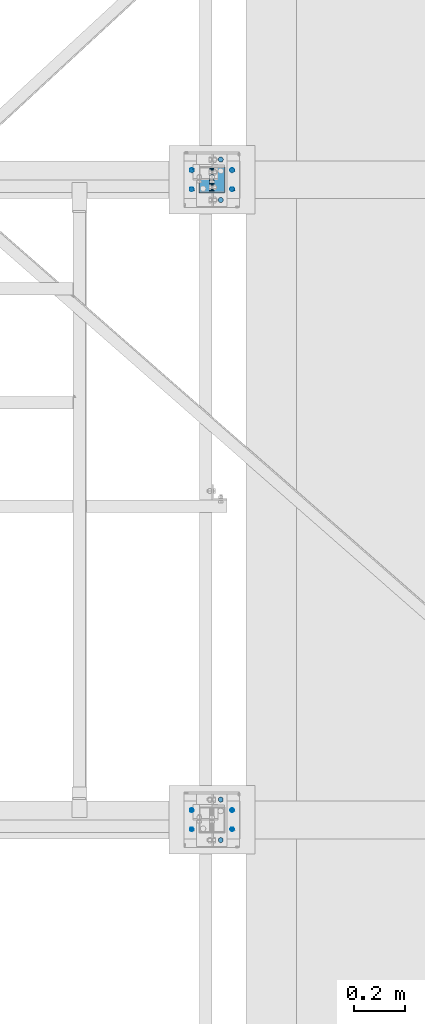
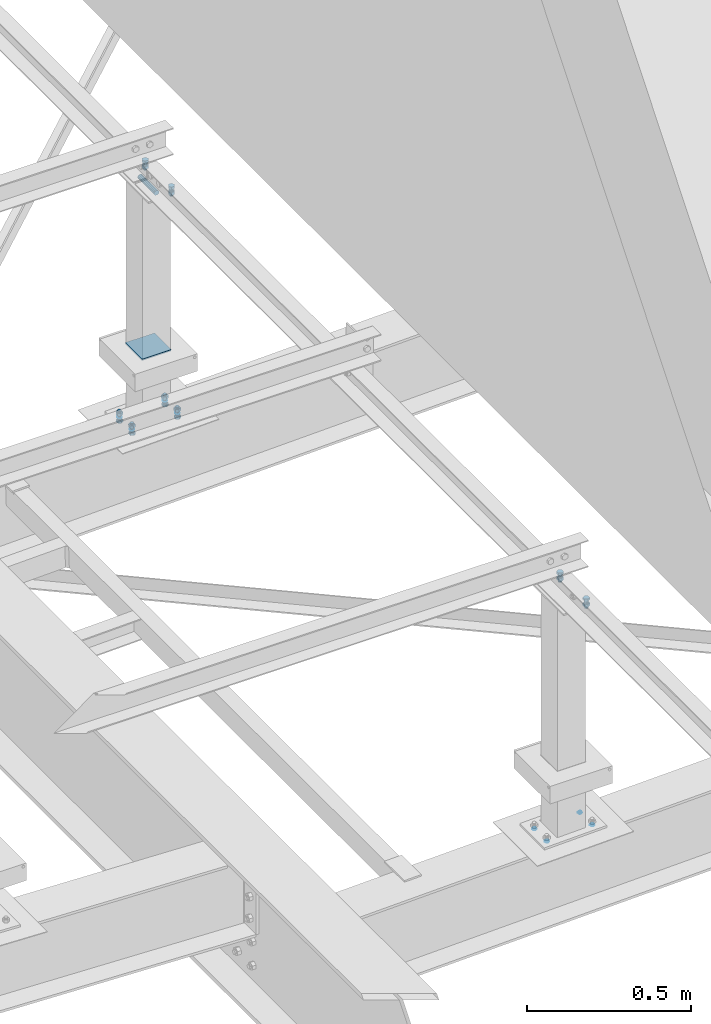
# One storey, part 88 of 3134: 7 mechanical fasteners, 6 elements without a shape of their own.
"""IFC2X3 building model written with IfcOpenShell, lengths in millimetres."""

from ifc_helpers import new_model, si_unit, frame, origin_with_axes, place, context, subcontext, project, spatial, faceted_brep, source, transform, mapped, material, type_object, element, aggregate, save


model = new_model("IFC2X3")

# Units and contexts
model_context = context("Model", 3, precision=1e-05, world=origin_with_axes())
body_context = subcontext(model_context, "Body", "Model", "MODEL_VIEW")
ifc_project = project(units=[si_unit("LENGTHUNIT", "METRE", prefix="MILLI"), si_unit("AREAUNIT", "SQUARE_METRE"), si_unit("VOLUMEUNIT", "CUBIC_METRE"), si_unit("MASSUNIT", "GRAM", prefix="KILO"), si_unit("TIMEUNIT", "SECOND"), si_unit("PLANEANGLEUNIT", "RADIAN"), si_unit("SOLIDANGLEUNIT", "STERADIAN"), si_unit("THERMODYNAMICTEMPERATUREUNIT", "DEGREE_CELSIUS"), si_unit("LUMINOUSINTENSITYUNIT", "LUMEN")], contexts=[model_context])

# Site, building, storey
site_placement = place(None, origin_with_axes())
site = spatial("IfcSite", under=ifc_project, at=site_placement, CompositionType="ELEMENT")
building_placement = place(site_placement, origin_with_axes())
building = spatial("IfcBuilding", under=site, at=building_placement, Name="Undefined", CompositionType="ELEMENT")
storey_placement = place(building_placement, origin_with_axes())
storey = spatial("IfcBuildingStorey", under=building, at=storey_placement, Name="Undefined", CompositionType="ELEMENT", Elevation=0.0)

# Assembly, mechanical fastener
assembly_1_placement = place(storey_placement, origin_with_axes())
assembly_1 = element("IfcElementAssembly", 1, at=assembly_1_placement, inside=storey, AssemblyPlace="NOTDEFINED", PredefinedType="RIGID_FRAME")
ifc_material_1 = material(Name="8.8")
mechanical_fastener_type = type_object("IfcMechanicalFastenerType", Name="Bolt assembly")
shared_shape_1 = source(origin_with_axes(), body_context, "Body", "Brep", [
    faceted_brep([(10.9696551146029, -14.0, 0.0), (5.48482755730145, -14.0, 9.5), (-5.48482755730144, -14.0, 9.5), (-10.9696551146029, -14.0, 1.34339530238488e-15), (-5.48482755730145, -14.0, -9.5), (5.48482755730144, -14.0, -9.50000000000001), (5.48482755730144, -6.0, -9.50000000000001), (-5.48482755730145, -6.0, -9.5), (-10.9696551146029, -6.0, 1.34339530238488e-15), (-5.48482755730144, -6.0, 9.5), (5.48482755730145, -6.0, 9.5), (10.9696551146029, -6.0, 0.0), (6.0, -6.0, 0.0), (5.19615242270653, -6.0, 3.00000000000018), (2.99999999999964, -6.0, 5.19615242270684), (-6.21801588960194e-13, -6.0, 6.0), (-3.00000000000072, -6.0, 5.19615242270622), (-5.19615242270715, -6.0, 2.9999999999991), (-6.0, -6.0, -1.24360317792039e-12), (-5.19615242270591, -6.0, -3.00000000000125), (-2.99999999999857, -6.0, -5.19615242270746), (1.85874342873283e-12, -6.0, -6.0), (3.00000000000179, -6.0, -5.1961524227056), (5.19615242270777, -6.0, -2.99999999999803), (5.19615242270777, 24.0, -2.99999999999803), (3.00000000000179, 24.0, -5.1961524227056), (1.85874342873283e-12, 24.0, -6.0), (-2.99999999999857, 24.0, -5.19615242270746), (-5.19615242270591, 24.0, -3.00000000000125), (-6.0, 24.0, -1.24360317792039e-12), (-5.19615242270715, 24.0, 2.9999999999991), (-3.00000000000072, 24.0, 5.19615242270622), (-6.21801588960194e-13, 24.0, 6.0), (2.99999999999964, 24.0, 5.19615242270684), (5.19615242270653, 24.0, 3.00000000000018), (6.0, 24.0, 0.0), (10.9696551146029, 6.00000000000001, 0.0), (5.48482755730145, 6.00000000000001, 9.5), (-5.48482755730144, 6.00000000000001, 9.5), (-10.9696551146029, 6.00000000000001, 1.34339530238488e-15), (-5.48482755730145, 6.00000000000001, -9.5), (5.48482755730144, 6.00000000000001, -9.50000000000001), (5.48482755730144, 16.0, -9.50000000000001), (-5.48482755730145, 16.0, -9.5), (-10.9696551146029, 16.0, 1.34339530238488e-15), (-5.48482755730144, 16.0, 9.5), (5.48482755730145, 16.0, 9.5), (10.9696551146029, 16.0, 0.0)], [[[0, 1, 2, 3, 4, 5]], [[6, 7, 8, 9, 10, 11]], [[0, 11, 10, 1]], [[1, 10, 9, 2]], [[2, 9, 8, 3]], [[3, 8, 7, 4]], [[4, 7, 6, 5]], [[5, 6, 11, 0]], [[12, 13, 14, 15, 16, 17, 18, 19, 20, 21, 22, 23]], [[24, 25, 26, 27, 28, 29, 30, 31, 32, 33, 34, 35]], [[12, 35, 34, 13]], [[13, 34, 33, 14]], [[14, 33, 32, 15]], [[15, 32, 31, 16]], [[16, 31, 30, 17]], [[17, 30, 29, 18]], [[18, 29, 28, 19]], [[19, 28, 27, 20]], [[20, 27, 26, 21]], [[21, 26, 25, 22]], [[22, 25, 24, 23]], [[23, 24, 35, 12]], [[36, 37, 38, 39, 40, 41]], [[42, 43, 44, 45, 46, 47]], [[36, 47, 46, 37]], [[37, 46, 45, 38]], [[38, 45, 44, 39]], [[39, 44, 43, 40]], [[40, 43, 42, 41]], [[41, 42, 47, 36]]]),
    faceted_brep([(7.0, -5.9, 0.0), (6.06217782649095, -5.9, 3.50000000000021), (3.49999999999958, -5.9, 6.06217782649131), (-7.25435187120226e-13, -5.9, 7.0), (-3.50000000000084, -5.9, 6.06217782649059), (-6.06217782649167, -5.9, 3.49999999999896), (-7.0, -5.9, -1.45087037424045e-12), (-6.06217782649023, -5.9, -3.50000000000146), (-3.49999999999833, -5.9, -6.06217782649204), (2.1685340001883e-12, -5.9, -7.0), (3.50000000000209, -5.9, -6.06217782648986), (6.0621778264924, -5.9, -3.4999999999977), (6.0621778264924, 0.0999999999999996, -3.4999999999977), (3.50000000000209, 0.0999999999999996, -6.06217782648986), (2.1685340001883e-12, 0.0999999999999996, -7.0), (-3.49999999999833, 0.0999999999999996, -6.06217782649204), (-6.06217782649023, 0.0999999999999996, -3.50000000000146), (-7.0, 0.0999999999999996, -1.45087037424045e-12), (-6.06217782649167, 0.0999999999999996, 3.49999999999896), (-3.50000000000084, 0.0999999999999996, 6.06217782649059), (-7.25435187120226e-13, 0.0999999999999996, 7.0), (3.49999999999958, 0.0999999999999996, 6.06217782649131), (6.06217782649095, 0.0999999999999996, 3.50000000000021), (7.0, 0.0999999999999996, 0.0), (7.0, -0.1, 0.0), (6.06217782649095, -0.1, 3.50000000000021), (3.49999999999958, -0.1, 6.06217782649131), (-7.25435187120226e-13, -0.1, 7.0), (-3.50000000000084, -0.1, 6.06217782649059), (-6.06217782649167, -0.1, 3.49999999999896), (-7.0, -0.1, -1.45087037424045e-12), (-6.06217782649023, -0.1, -3.50000000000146), (-3.49999999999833, -0.1, -6.06217782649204), (2.1685340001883e-12, -0.1, -7.0), (3.50000000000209, -0.1, -6.06217782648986), (6.0621778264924, -0.1, -3.4999999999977), (6.0621778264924, 6.00000000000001, -3.4999999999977), (3.50000000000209, 6.00000000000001, -6.06217782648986), (2.1685340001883e-12, 6.00000000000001, -7.0), (-3.49999999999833, 6.00000000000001, -6.06217782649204), (-6.06217782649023, 6.00000000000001, -3.50000000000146), (-7.0, 6.00000000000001, -1.45087037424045e-12), (-6.06217782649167, 6.00000000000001, 3.49999999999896), (-3.50000000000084, 6.00000000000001, 6.06217782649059), (-7.25435187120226e-13, 6.00000000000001, 7.0), (3.49999999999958, 6.00000000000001, 6.06217782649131), (6.06217782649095, 6.00000000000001, 3.50000000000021), (7.0, 6.00000000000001, 0.0)], [[[0, 1, 2, 3, 4, 5, 6, 7, 8, 9, 10, 11]], [[12, 13, 14, 15, 16, 17, 18, 19, 20, 21, 22, 23]], [[0, 23, 22, 1]], [[1, 22, 21, 2]], [[2, 21, 20, 3]], [[3, 20, 19, 4]], [[4, 19, 18, 5]], [[5, 18, 17, 6]], [[6, 17, 16, 7]], [[7, 16, 15, 8]], [[8, 15, 14, 9]], [[9, 14, 13, 10]], [[10, 13, 12, 11]], [[11, 12, 23, 0]], [[24, 25, 26, 27, 28, 29, 30, 31, 32, 33, 34, 35]], [[36, 37, 38, 39, 40, 41, 42, 43, 44, 45, 46, 47]], [[24, 47, 46, 25]], [[25, 46, 45, 26]], [[26, 45, 44, 27]], [[27, 44, 43, 28]], [[28, 43, 42, 29]], [[29, 42, 41, 30]], [[30, 41, 40, 31]], [[31, 40, 39, 32]], [[32, 39, 38, 33]], [[33, 38, 37, 34]], [[34, 37, 36, 35]], [[35, 36, 47, 24]]]),
])
mechanical_fastener_1_placement = place(assembly_1_placement, frame((10440.0, 26963.75, 4265.0), z_axis=(-1.0, 0.0, 0.0), x_axis=(0.0, 1.0, 0.0)))
mechanical_fastener_1 = element("IfcMechanicalFastener", 2, at=mechanical_fastener_1_placement, type_object=mechanical_fastener_type, material=ifc_material_1, Name="Bolt assembly", NominalDiameter=12.0, NominalLength=30.0, context=body_context, shape_type="MappedRepresentation", body=[
    mapped(shared_shape_1, transform((0.0, 0.0, 0.0))),
    mapped(shared_shape_1, transform((160.0, 0.0, 0.0))),
])
aggregate(assembly_1, [mechanical_fastener_1])

assembly_2_placement = place(storey_placement, origin_with_axes())
assembly_2 = element("IfcElementAssembly", 3, at=assembly_2_placement, inside=storey, AssemblyPlace="NOTDEFINED", PredefinedType="RIGID_FRAME")
shared_shape_2 = source(origin_with_axes(), body_context, "Body", "Brep", [
    faceted_brep([(10.9696551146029, -14.0, 0.0), (5.48482755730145, -14.0, 9.5), (-5.48482755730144, -14.0, 9.5), (-10.9696551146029, -14.0, 1.34339530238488e-15), (-5.48482755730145, -14.0, -9.5), (5.48482755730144, -14.0, -9.50000000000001), (5.48482755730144, -6.0, -9.50000000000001), (-5.48482755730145, -6.0, -9.5), (-10.9696551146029, -6.0, 1.34339530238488e-15), (-5.48482755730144, -6.0, 9.5), (5.48482755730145, -6.0, 9.5), (10.9696551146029, -6.0, 0.0), (6.0, -6.0, 0.0), (5.19615242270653, -6.0, 3.00000000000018), (2.99999999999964, -6.0, 5.19615242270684), (-6.21801588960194e-13, -6.0, 6.0), (-3.00000000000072, -6.0, 5.19615242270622), (-5.19615242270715, -6.0, 2.9999999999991), (-6.0, -6.0, -1.24360317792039e-12), (-5.19615242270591, -6.0, -3.00000000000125), (-2.99999999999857, -6.0, -5.19615242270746), (1.85874342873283e-12, -6.0, -6.0), (3.00000000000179, -6.0, -5.1961524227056), (5.19615242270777, -6.0, -2.99999999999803), (5.19615242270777, 24.0, -2.99999999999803), (3.00000000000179, 24.0, -5.1961524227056), (1.85874342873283e-12, 24.0, -6.0), (-2.99999999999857, 24.0, -5.19615242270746), (-5.19615242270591, 24.0, -3.00000000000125), (-6.0, 24.0, -1.24360317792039e-12), (-5.19615242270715, 24.0, 2.9999999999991), (-3.00000000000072, 24.0, 5.19615242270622), (-6.21801588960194e-13, 24.0, 6.0), (2.99999999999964, 24.0, 5.19615242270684), (5.19615242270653, 24.0, 3.00000000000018), (6.0, 24.0, 0.0), (10.9696551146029, 6.00000000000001, 0.0), (5.48482755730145, 6.00000000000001, 9.5), (-5.48482755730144, 6.00000000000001, 9.5), (-10.9696551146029, 6.00000000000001, 1.34339530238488e-15), (-5.48482755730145, 6.00000000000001, -9.5), (5.48482755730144, 6.00000000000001, -9.50000000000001), (5.48482755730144, 16.0, -9.50000000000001), (-5.48482755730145, 16.0, -9.5), (-10.9696551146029, 16.0, 1.34339530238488e-15), (-5.48482755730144, 16.0, 9.5), (5.48482755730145, 16.0, 9.5), (10.9696551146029, 16.0, 0.0)], [[[0, 1, 2, 3, 4, 5]], [[6, 7, 8, 9, 10, 11]], [[0, 11, 10, 1]], [[1, 10, 9, 2]], [[2, 9, 8, 3]], [[3, 8, 7, 4]], [[4, 7, 6, 5]], [[5, 6, 11, 0]], [[12, 13, 14, 15, 16, 17, 18, 19, 20, 21, 22, 23]], [[24, 25, 26, 27, 28, 29, 30, 31, 32, 33, 34, 35]], [[12, 35, 34, 13]], [[13, 34, 33, 14]], [[14, 33, 32, 15]], [[15, 32, 31, 16]], [[16, 31, 30, 17]], [[17, 30, 29, 18]], [[18, 29, 28, 19]], [[19, 28, 27, 20]], [[20, 27, 26, 21]], [[21, 26, 25, 22]], [[22, 25, 24, 23]], [[23, 24, 35, 12]], [[36, 37, 38, 39, 40, 41]], [[42, 43, 44, 45, 46, 47]], [[36, 47, 46, 37]], [[37, 46, 45, 38]], [[38, 45, 44, 39]], [[39, 44, 43, 40]], [[40, 43, 42, 41]], [[41, 42, 47, 36]]]),
    faceted_brep([(7.0, -0.1, 0.0), (6.06217782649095, -0.1, 3.50000000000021), (3.49999999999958, -0.1, 6.06217782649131), (-7.25435187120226e-13, -0.1, 7.0), (-3.50000000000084, -0.1, 6.06217782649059), (-6.06217782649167, -0.1, 3.49999999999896), (-7.0, -0.1, -1.45087037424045e-12), (-6.06217782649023, -0.1, -3.50000000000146), (-3.49999999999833, -0.1, -6.06217782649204), (2.1685340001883e-12, -0.1, -7.0), (3.50000000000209, -0.1, -6.06217782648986), (6.0621778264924, -0.1, -3.4999999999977), (6.0621778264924, 6.00000000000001, -3.4999999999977), (3.50000000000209, 6.00000000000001, -6.06217782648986), (2.1685340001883e-12, 6.00000000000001, -7.0), (-3.49999999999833, 6.00000000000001, -6.06217782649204), (-6.06217782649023, 6.00000000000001, -3.50000000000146), (-7.0, 6.00000000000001, -1.45087037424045e-12), (-6.06217782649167, 6.00000000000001, 3.49999999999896), (-3.50000000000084, 6.00000000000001, 6.06217782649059), (-7.25435187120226e-13, 6.00000000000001, 7.0), (3.49999999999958, 6.00000000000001, 6.06217782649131), (6.06217782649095, 6.00000000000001, 3.50000000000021), (7.0, 6.00000000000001, 0.0), (7.0, -5.9, 0.0), (6.06217782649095, -5.9, 3.50000000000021), (3.49999999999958, -5.9, 6.06217782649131), (-7.25435187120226e-13, -5.9, 7.0), (-3.50000000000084, -5.9, 6.06217782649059), (-6.06217782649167, -5.9, 3.49999999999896), (-7.0, -5.9, -1.45087037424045e-12), (-6.06217782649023, -5.9, -3.50000000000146), (-3.49999999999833, -5.9, -6.06217782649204), (2.1685340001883e-12, -5.9, -7.0), (3.50000000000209, -5.9, -6.06217782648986), (6.0621778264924, -5.9, -3.4999999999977), (6.0621778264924, 0.0999999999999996, -3.4999999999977), (3.50000000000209, 0.0999999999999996, -6.06217782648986), (2.1685340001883e-12, 0.0999999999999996, -7.0), (-3.49999999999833, 0.0999999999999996, -6.06217782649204), (-6.06217782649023, 0.0999999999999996, -3.50000000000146), (-7.0, 0.0999999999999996, -1.45087037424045e-12), (-6.06217782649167, 0.0999999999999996, 3.49999999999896), (-3.50000000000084, 0.0999999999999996, 6.06217782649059), (-7.25435187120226e-13, 0.0999999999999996, 7.0), (3.49999999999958, 0.0999999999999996, 6.06217782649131), (6.06217782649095, 0.0999999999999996, 3.50000000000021), (7.0, 0.0999999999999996, 0.0)], [[[0, 1, 2, 3, 4, 5, 6, 7, 8, 9, 10, 11]], [[12, 13, 14, 15, 16, 17, 18, 19, 20, 21, 22, 23]], [[0, 23, 22, 1]], [[1, 22, 21, 2]], [[2, 21, 20, 3]], [[3, 20, 19, 4]], [[4, 19, 18, 5]], [[5, 18, 17, 6]], [[6, 17, 16, 7]], [[7, 16, 15, 8]], [[8, 15, 14, 9]], [[9, 14, 13, 10]], [[10, 13, 12, 11]], [[11, 12, 23, 0]], [[24, 25, 26, 27, 28, 29, 30, 31, 32, 33, 34, 35]], [[36, 37, 38, 39, 40, 41, 42, 43, 44, 45, 46, 47]], [[24, 47, 46, 25]], [[25, 46, 45, 26]], [[26, 45, 44, 27]], [[27, 44, 43, 28]], [[28, 43, 42, 29]], [[29, 42, 41, 30]], [[30, 41, 40, 31]], [[31, 40, 39, 32]], [[32, 39, 38, 33]], [[33, 38, 37, 34]], [[34, 37, 36, 35]], [[35, 36, 47, 24]]]),
])
mechanical_fastener_2_placement = place(assembly_2_placement, frame((10440.0, 29575.0, 4265.0), z_axis=(0.0, -1.0, 0.0), x_axis=(-1.0, 0.0, 0.0)))
mechanical_fastener_2 = element("IfcMechanicalFastener", 4, at=mechanical_fastener_2_placement, type_object=mechanical_fastener_type, material=ifc_material_1, Name="Bolt assembly", NominalDiameter=12.0, NominalLength=30.0, context=body_context, shape_type="MappedRepresentation", body=[
    mapped(shared_shape_2, transform((0.0, -5.32963895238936e-10, -79.9999999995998))),
    mapped(shared_shape_2, transform((0.0, 5.3114490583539e-10, 79.9999999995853))),
])
aggregate(assembly_2, [mechanical_fastener_2])

assembly_3_placement = place(storey_placement, origin_with_axes())
assembly_3 = element("IfcElementAssembly", 5, at=assembly_3_placement, inside=storey, Name="300", AssemblyPlace="NOTDEFINED", PredefinedType="RIGID_FRAME")
shared_shape_3 = source(origin_with_axes(), body_context, "Body", "Brep", [
    faceted_brep([(10.9696551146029, -4.1984682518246, 0.0), (5.48482755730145, -4.1984682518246, 9.5), (-5.48482755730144, -4.1984682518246, 9.5), (-10.9696551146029, -4.1984682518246, 1.34339530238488e-15), (-5.48482755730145, -4.1984682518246, -9.5), (5.48482755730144, -4.1984682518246, -9.50000000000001), (5.48482755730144, 3.8015317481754, -9.50000000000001), (-5.48482755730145, 3.8015317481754, -9.5), (-10.9696551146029, 3.8015317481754, 1.34339530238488e-15), (-5.48482755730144, 3.8015317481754, 9.5), (5.48482755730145, 3.8015317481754, 9.5), (10.9696551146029, 3.8015317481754, 0.0), (6.0, 3.8015317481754, 0.0), (5.19615242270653, 3.8015317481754, 3.00000000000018), (2.99999999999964, 3.8015317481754, 5.19615242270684), (-6.21801588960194e-13, 3.8015317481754, 6.0), (-3.00000000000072, 3.8015317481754, 5.19615242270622), (-5.19615242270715, 3.8015317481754, 2.9999999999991), (-6.0, 3.8015317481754, -1.24360317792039e-12), (-5.19615242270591, 3.8015317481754, -3.00000000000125), (-2.99999999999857, 3.8015317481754, -5.19615242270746), (1.85874342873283e-12, 3.8015317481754, -6.0), (3.00000000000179, 3.8015317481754, -5.1961524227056), (5.19615242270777, 3.8015317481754, -2.99999999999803), (5.19615242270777, 38.8015317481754, -2.99999999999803), (3.00000000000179, 38.8015317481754, -5.1961524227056), (1.85874342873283e-12, 38.8015317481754, -6.0), (-2.99999999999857, 38.8015317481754, -5.19615242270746), (-5.19615242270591, 38.8015317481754, -3.00000000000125), (-6.0, 38.8015317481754, -1.24360317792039e-12), (-5.19615242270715, 38.8015317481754, 2.9999999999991), (-3.00000000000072, 38.8015317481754, 5.19615242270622), (-6.21801588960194e-13, 38.8015317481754, 6.0), (2.99999999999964, 38.8015317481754, 5.19615242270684), (5.19615242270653, 38.8015317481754, 3.00000000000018), (6.0, 38.8015317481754, 0.0), (10.9696551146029, 23.0039050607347, 0.0), (5.48482755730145, 23.0039050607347, 9.5), (-5.48482755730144, 23.0039050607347, 9.5), (-10.9696551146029, 23.0039050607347, 1.34339530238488e-15), (-5.48482755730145, 23.0039050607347, -9.5), (5.48482755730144, 23.0039050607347, -9.50000000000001), (5.48482755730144, 33.0039050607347, -9.50000000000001), (-5.48482755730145, 33.0039050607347, -9.5), (-10.9696551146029, 33.0039050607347, 1.34339530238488e-15), (-5.48482755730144, 33.0039050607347, 9.5), (5.48482755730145, 33.0039050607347, 9.5), (10.9696551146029, 33.0039050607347, 0.0)], [[[0, 1, 2, 3, 4, 5]], [[6, 7, 8, 9, 10, 11]], [[0, 11, 10, 1]], [[1, 10, 9, 2]], [[2, 9, 8, 3]], [[3, 8, 7, 4]], [[4, 7, 6, 5]], [[5, 6, 11, 0]], [[12, 13, 14, 15, 16, 17, 18, 19, 20, 21, 22, 23]], [[24, 25, 26, 27, 28, 29, 30, 31, 32, 33, 34, 35]], [[12, 35, 34, 13]], [[13, 34, 33, 14]], [[14, 33, 32, 15]], [[15, 32, 31, 16]], [[16, 31, 30, 17]], [[17, 30, 29, 18]], [[18, 29, 28, 19]], [[19, 28, 27, 20]], [[20, 27, 26, 21]], [[21, 26, 25, 22]], [[22, 25, 24, 23]], [[23, 24, 35, 12]], [[36, 37, 38, 39, 40, 41]], [[42, 43, 44, 45, 46, 47]], [[36, 47, 46, 37]], [[37, 46, 45, 38]], [[38, 45, 44, 39]], [[39, 44, 43, 40]], [[40, 43, 42, 41]], [[41, 42, 47, 36]]]),
    faceted_brep([(7.0, 14.9039050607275, 0.0), (6.06217782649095, 14.9039050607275, 3.50000000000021), (3.49999999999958, 14.9039050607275, 6.06217782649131), (-7.25435187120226e-13, 14.9039050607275, 7.0), (-3.50000000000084, 14.9039050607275, 6.06217782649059), (-6.06217782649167, 14.9039050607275, 3.49999999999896), (-7.0, 14.9039050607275, -1.45087037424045e-12), (-6.06217782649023, 14.9039050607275, -3.50000000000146), (-3.49999999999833, 14.9039050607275, -6.06217782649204), (2.1685340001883e-12, 14.9039050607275, -7.0), (3.50000000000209, 14.9039050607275, -6.06217782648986), (6.0621778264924, 14.9039050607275, -3.4999999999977), (6.0621778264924, 23.0039050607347, -3.4999999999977), (3.50000000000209, 23.0039050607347, -6.06217782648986), (2.1685340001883e-12, 23.0039050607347, -7.0), (-3.49999999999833, 23.0039050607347, -6.06217782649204), (-6.06217782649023, 23.0039050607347, -3.50000000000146), (-7.0, 23.0039050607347, -1.45087037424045e-12), (-6.06217782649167, 23.0039050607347, 3.49999999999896), (-3.50000000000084, 23.0039050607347, 6.06217782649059), (-7.25435187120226e-13, 23.0039050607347, 7.0), (3.49999999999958, 23.0039050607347, 6.06217782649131), (6.06217782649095, 23.0039050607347, 3.50000000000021), (7.0, 23.0039050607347, 0.0), (7.0, 3.9015317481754, 0.0), (6.06217782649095, 3.9015317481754, 3.50000000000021), (3.49999999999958, 3.9015317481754, 6.06217782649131), (-7.25435187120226e-13, 3.9015317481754, 7.0), (-3.50000000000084, 3.9015317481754, 6.06217782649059), (-6.06217782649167, 3.9015317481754, 3.49999999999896), (-7.0, 3.9015317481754, -1.45087037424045e-12), (-6.06217782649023, 3.9015317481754, -3.50000000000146), (-3.49999999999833, 3.9015317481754, -6.06217782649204), (2.1685340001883e-12, 3.9015317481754, -7.0), (3.50000000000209, 3.9015317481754, -6.06217782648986), (6.0621778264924, 3.9015317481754, -3.4999999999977), (6.0621778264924, 13.1015315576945, -3.4999999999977), (3.50000000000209, 13.1015315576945, -6.06217782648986), (2.1685340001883e-12, 13.1015315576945, -7.0), (-3.49999999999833, 13.1015315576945, -6.06217782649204), (-6.06217782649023, 13.1015315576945, -3.50000000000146), (-7.0, 13.1015315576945, -1.45087037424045e-12), (-6.06217782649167, 13.1015315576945, 3.49999999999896), (-3.50000000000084, 13.1015315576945, 6.06217782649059), (-7.25435187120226e-13, 13.1015315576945, 7.0), (3.49999999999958, 13.1015315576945, 6.06217782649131), (6.06217782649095, 13.1015315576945, 3.50000000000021), (7.0, 13.1015315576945, 0.0)], [[[0, 1, 2, 3, 4, 5, 6, 7, 8, 9, 10, 11]], [[12, 13, 14, 15, 16, 17, 18, 19, 20, 21, 22, 23]], [[0, 23, 22, 1]], [[1, 22, 21, 2]], [[2, 21, 20, 3]], [[3, 20, 19, 4]], [[4, 19, 18, 5]], [[5, 18, 17, 6]], [[6, 17, 16, 7]], [[7, 16, 15, 8]], [[8, 15, 14, 9]], [[9, 14, 13, 10]], [[10, 13, 12, 11]], [[11, 12, 23, 0]], [[24, 25, 26, 27, 28, 29, 30, 31, 32, 33, 34, 35]], [[36, 37, 38, 39, 40, 41, 42, 43, 44, 45, 46, 47]], [[24, 47, 46, 25]], [[25, 46, 45, 26]], [[26, 45, 44, 27]], [[27, 44, 43, 28]], [[28, 43, 42, 29]], [[29, 42, 41, 30]], [[30, 41, 40, 31]], [[31, 40, 39, 32]], [[32, 39, 38, 33]], [[33, 38, 37, 34]], [[34, 37, 36, 35]], [[35, 36, 47, 24]]]),
])
mechanical_fastener_3_placement = place(assembly_3_placement, frame((10405.7748812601, 29537.0, 3374.2272055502), z_axis=(0.999519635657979, 0.0, 0.0309919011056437), x_axis=(0.0, 1.0, 0.0)))
mechanical_fastener_3 = element("IfcMechanicalFastener", 6, at=mechanical_fastener_3_placement, type_object=mechanical_fastener_type, material=ifc_material_1, Name="Bolt assembly", NominalDiameter=12.0, NominalLength=35.0, context=body_context, shape_type="MappedRepresentation", body=[
    mapped(shared_shape_3, transform((0.0, -5.32963895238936e-10, -79.9999999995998))),
    mapped(shared_shape_3, transform((76.0, -5.32963895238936e-10, -79.9999999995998))),
    mapped(shared_shape_3, transform((0.0, 5.3114490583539e-10, 79.9999999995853))),
    mapped(shared_shape_3, transform((76.0, 5.3114490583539e-10, 79.9999999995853))),
])
aggregate(assembly_3, [mechanical_fastener_3])

assembly_4_placement = place(storey_placement, origin_with_axes())
assembly_4 = element("IfcElementAssembly", 7, at=assembly_4_placement, inside=storey, AssemblyPlace="NOTDEFINED", PredefinedType="RIGID_FRAME")
shared_shape_4 = source(origin_with_axes(), body_context, "Body", "Brep", [
    faceted_brep([(7.0, 13.0000253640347, 0.0), (6.06217782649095, 13.0000253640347, 3.50000000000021), (3.49999999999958, 13.0000253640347, 6.06217782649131), (-7.25435187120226e-13, 13.0000253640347, 7.0), (-3.50000000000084, 13.0000253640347, 6.06217782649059), (-6.06217782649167, 13.0000253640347, 3.49999999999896), (-7.0, 13.0000253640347, -1.45087037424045e-12), (-6.06217782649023, 13.0000253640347, -3.50000000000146), (-3.49999999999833, 13.0000253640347, -6.06217782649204), (2.1685340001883e-12, 13.0000253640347, -7.0), (3.50000000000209, 13.0000253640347, -6.06217782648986), (6.0621778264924, 13.0000253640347, -3.4999999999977), (6.0621778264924, 15.0999999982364, -3.4999999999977), (3.50000000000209, 15.0999999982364, -6.06217782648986), (2.1685340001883e-12, 15.0999999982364, -7.0), (-3.49999999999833, 15.0999999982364, -6.06217782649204), (-6.06217782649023, 15.0999999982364, -3.50000000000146), (-7.0, 15.0999999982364, -1.45087037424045e-12), (-6.06217782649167, 15.0999999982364, 3.49999999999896), (-3.50000000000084, 15.0999999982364, 6.06217782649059), (-7.25435187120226e-13, 15.0999999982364, 7.0), (3.49999999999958, 15.0999999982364, 6.06217782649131), (6.06217782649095, 15.0999999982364, 3.50000000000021), (7.0, 15.0999999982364, 0.0)], [[[0, 1, 2, 3, 4, 5, 6, 7, 8, 9, 10, 11]], [[12, 13, 14, 15, 16, 17, 18, 19, 20, 21, 22, 23]], [[0, 23, 22, 1]], [[1, 22, 21, 2]], [[2, 21, 20, 3]], [[3, 20, 19, 4]], [[4, 19, 18, 5]], [[5, 18, 17, 6]], [[6, 17, 16, 7]], [[7, 16, 15, 8]], [[8, 15, 14, 9]], [[9, 14, 13, 10]], [[10, 13, 12, 11]], [[11, 12, 23, 0]]]),
])
mechanical_fastener_4_placement = place(assembly_4_placement, frame((10405.7748812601, 29537.0, 3374.2272055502), z_axis=(0.999519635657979, 0.0, 0.0309919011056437), x_axis=(0.0, 1.0, 0.0)))
mechanical_fastener_4 = element("IfcMechanicalFastener", 8, at=mechanical_fastener_4_placement, type_object=mechanical_fastener_type, material=ifc_material_1, Name="Bolt assembly", NominalDiameter=12.0, NominalLength=2.0, context=body_context, shape_type="MappedRepresentation", body=[
    mapped(shared_shape_4, transform((0.0, -5.32963895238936e-10, -79.9999999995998))),
    mapped(shared_shape_4, transform((76.0, -5.32963895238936e-10, -79.9999999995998))),
    mapped(shared_shape_4, transform((0.0, 5.3114490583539e-10, 79.9999999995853))),
    mapped(shared_shape_4, transform((76.0, 5.3114490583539e-10, 79.9999999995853))),
])
aggregate(assembly_4, [mechanical_fastener_4])

assembly_5_placement = place(storey_placement, origin_with_axes())
assembly_5 = element("IfcElementAssembly", 9, at=assembly_5_placement, inside=storey, AssemblyPlace="NOTDEFINED", PredefinedType="RIGID_FRAME")
mechanical_fastener_5_placement = place(assembly_5_placement, frame((10405.7748812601, 27005.75, 3374.2272055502), z_axis=(0.999519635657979, 0.0, 0.0309919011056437), x_axis=(0.0, 1.0, 0.0)))
mechanical_fastener_5 = element("IfcMechanicalFastener", 10, at=mechanical_fastener_5_placement, type_object=mechanical_fastener_type, material=ifc_material_1, Name="Bolt assembly", NominalDiameter=12.0, NominalLength=2.0, context=body_context, shape_type="MappedRepresentation", body=[
    mapped(shared_shape_4, transform((0.0, -5.32963895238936e-10, -79.9999999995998))),
    mapped(shared_shape_4, transform((76.0, -5.32963895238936e-10, -79.9999999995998))),
    mapped(shared_shape_4, transform((0.0, 5.3114490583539e-10, 79.9999999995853))),
    mapped(shared_shape_4, transform((76.0, 5.3114490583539e-10, 79.9999999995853))),
])
aggregate(assembly_5, [mechanical_fastener_5])

# Assembly, mechanical fasteners
assembly_6_placement = place(storey_placement, origin_with_axes())
assembly_6 = element("IfcElementAssembly", 11, at=assembly_6_placement, inside=storey, AssemblyPlace="NOTDEFINED", PredefinedType="RIGID_FRAME")
shared_shape_5 = source(origin_with_axes(), body_context, "Body", "Brep", [
    faceted_brep([(9.0, -50.0, 0.0), (7.79422863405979, -50.0, 4.50000000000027), (4.49999999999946, -50.0, 7.79422863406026), (-9.3270238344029e-13, -50.0, 9.0), (-4.50000000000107, -50.0, 7.79422863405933), (-7.79422863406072, -50.0, 4.49999999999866), (-9.0, -50.0, -1.86540476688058e-12), (-7.79422863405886, -50.0, -4.50000000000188), (-4.49999999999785, -50.0, -7.79422863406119), (2.78811514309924e-12, -50.0, -9.0), (4.50000000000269, -50.0, -7.7942286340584), (7.79422863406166, -50.0, -4.49999999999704), (7.79422863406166, 50.1, -4.49999999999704), (4.50000000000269, 50.1, -7.7942286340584), (2.78811514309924e-12, 50.1, -9.0), (-4.49999999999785, 50.1, -7.79422863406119), (-7.79422863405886, 50.1, -4.50000000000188), (-9.0, 50.1, -1.86540476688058e-12), (-7.79422863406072, 50.1, 4.49999999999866), (-4.50000000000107, 50.1, 7.79422863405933), (-9.3270238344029e-13, 50.1, 9.0), (4.49999999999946, 50.1, 7.79422863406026), (7.79422863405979, 50.1, 4.50000000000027), (9.0, 50.1, 0.0)], [[[0, 1, 2, 3, 4, 5, 6, 7, 8, 9, 10, 11]], [[12, 13, 14, 15, 16, 17, 18, 19, 20, 21, 22, 23]], [[0, 23, 22, 1]], [[1, 22, 21, 2]], [[2, 21, 20, 3]], [[3, 20, 19, 4]], [[4, 19, 18, 5]], [[5, 18, 17, 6]], [[6, 17, 16, 7]], [[7, 16, 15, 8]], [[8, 15, 14, 9]], [[9, 14, 13, 10]], [[10, 13, 12, 11]], [[11, 12, 23, 0]]]),
])
mechanical_fastener_6_placement = place(assembly_6_placement, frame((10405.0, 29575.0, 4245.0), z_axis=(-1.0, 0.0, 0.0), x_axis=(0.0, 0.0, 1.0)))
mechanical_fastener_6 = element("IfcMechanicalFastener", 12, at=mechanical_fastener_6_placement, type_object=mechanical_fastener_type, material=ifc_material_1, Name="Bolt assembly", NominalDiameter=16.0, NominalLength=100.0, context=body_context, shape_type="MappedRepresentation", body=[
    mapped(shared_shape_5, transform((0.0, 0.0, 0.0))),
])
ifc_material_2 = material(Name="6.8")
shared_shape_6 = source(origin_with_axes(), body_context, "Body", "Brep", [
    faceted_brep([(51.5, 1.36424205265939e-12, 50.0), (51.3858192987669, 1.36424205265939e-12, 50.5740251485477), (51.0606601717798, 1.36424205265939e-12, 51.0606601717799), (50.5740251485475, 1.36424205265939e-12, 51.385819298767), (-50.0000000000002, 1.36424205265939e-12, 51.5), (-50.7500000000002, 1.36424205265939e-12, 51.2990381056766), (-51.2990381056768, 1.36424205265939e-12, 50.7499999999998), (-51.5, 1.36424205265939e-12, 49.9999999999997), (-51.5, 1.36424205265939e-12, -50.0000000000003), (-51.2990381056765, 1.36424205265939e-12, -50.7500000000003), (-50.7499999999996, 1.36424205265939e-12, -51.2990381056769), (-49.9999999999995, 1.36424205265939e-12, -51.5), (50.0000000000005, 1.36424205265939e-12, -51.5), (50.7500000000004, 1.36424205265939e-12, -51.2990381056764), (51.2990381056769, 1.36424205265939e-12, -50.7499999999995), (51.5, 1.36424205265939e-12, -49.9999999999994), (51.5, 5.10000000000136, -49.9999999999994), (51.2990381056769, 5.10000000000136, -50.7499999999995), (50.7500000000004, 5.10000000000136, -51.2990381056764), (50.0000000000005, 5.10000000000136, -51.5), (-49.9999999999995, 5.10000000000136, -51.5), (-50.7499999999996, 5.10000000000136, -51.2990381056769), (-51.2990381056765, 5.10000000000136, -50.7500000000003), (-51.5, 5.10000000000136, -50.0000000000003), (-51.5, 5.10000000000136, 49.9999999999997), (-51.2990381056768, 5.10000000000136, 50.7499999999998), (-50.7500000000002, 5.10000000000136, 51.2990381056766), (-50.0000000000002, 5.10000000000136, 51.5), (50.5740251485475, 5.10000000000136, 51.385819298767), (51.0606601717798, 5.10000000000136, 51.0606601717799), (51.3858192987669, 5.10000000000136, 50.5740251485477), (51.5, 5.10000000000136, 50.0)], [[[0, 1, 2, 3, 4, 5, 6, 7, 8, 9, 10, 11, 12, 13, 14, 15]], [[16, 17, 18, 19, 20, 21, 22, 23, 24, 25, 26, 27, 28, 29, 30, 31]], [[0, 31, 30, 1]], [[1, 30, 29, 2]], [[2, 29, 28, 3]], [[3, 28, 27, 4]], [[4, 27, 26, 5]], [[5, 26, 25, 6]], [[6, 25, 24, 7]], [[7, 24, 23, 8]], [[8, 23, 22, 9]], [[9, 22, 21, 10]], [[10, 21, 20, 11]], [[11, 20, 19, 12]], [[12, 19, 18, 13]], [[13, 18, 17, 14]], [[14, 17, 16, 15]], [[15, 16, 31, 0]]]),
])
mechanical_fastener_7_placement = place(assembly_6_placement, frame((10405.0, 29575.0, 3643.81), z_axis=(0.0, -1.0, 0.0), x_axis=(-1.0, 0.0, 0.0)))
mechanical_fastener_7 = element("IfcMechanicalFastener", 13, at=mechanical_fastener_7_placement, type_object=mechanical_fastener_type, material=ifc_material_2, Name="Bolt assembly", NominalDiameter=10.0, NominalLength=5.0, context=body_context, shape_type="MappedRepresentation", body=[
    mapped(shared_shape_6, transform((0.0, 0.0, 0.0))),
])
aggregate(assembly_6, [mechanical_fastener_6, mechanical_fastener_7])

save(model, "model.ifc")
